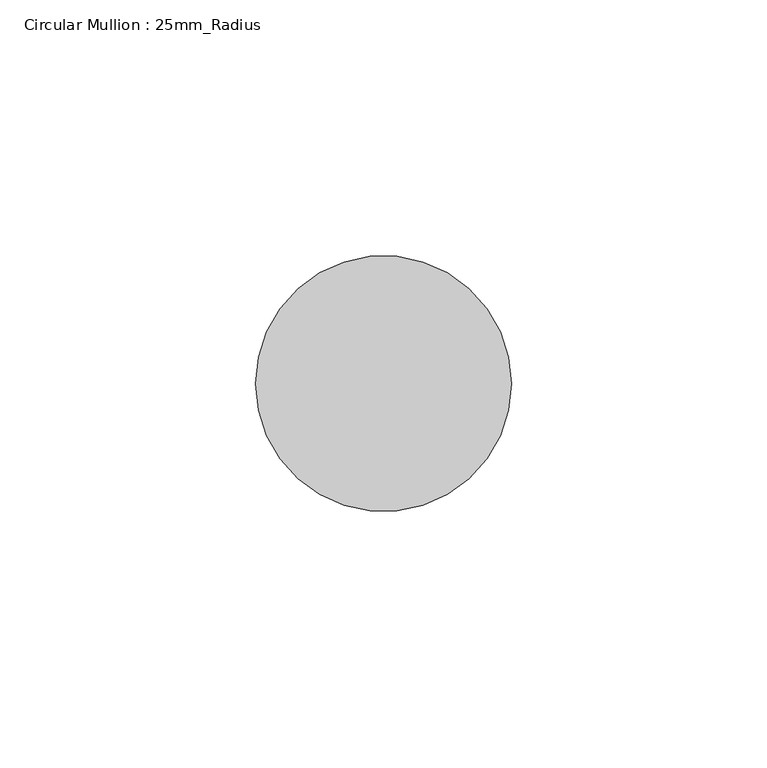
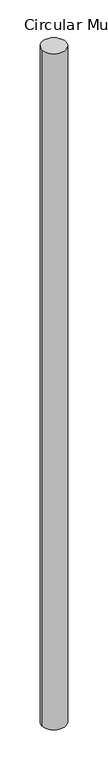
"""IFC4 building model written with IfcOpenShell, lengths in millimetres: member geometry, Circular Mullion : 25mm_Radius."""

from ifc_helpers import new_model, si_unit, point, frame, frame_2d, origin, place, context, project, spatial, circle_curve, trimmed, segment, composite_curve, outline, extrude, source, transform, mapped, element, save


def circular_mullion_25mm_radius_2fcc1ba0(model_context):
    return source(origin(), model_context, "Body", "SweptSolid", [
        extrude(outline(composite_curve([segment(trimmed(circle_curve(frame_2d((-25.0, 0.0)), 25.0), [point((0.0, 0.0))], [point((-50.0, 0.0))], False, "CARTESIAN"), True, "CONTINUOUS"), segment(trimmed(circle_curve(frame_2d((-25.0, 0.0)), 25.0), [point((-50.0, 0.0))], [point((0.0, 0.0))], False, "CARTESIAN"), True, "CONTINUOUS")], self_intersect=False)), frame((0.0, 0.0, -1491.6639607), z_axis=(0.0, 0.0, 1.0), x_axis=(1.0, 0.0, 0.0)), (0.0, 0.0, 1.0), 1491.6639607),
    ])


if __name__ == "__main__":
    model = new_model("IFC4")
    model_context = context("Model", 3, world=origin())
    ifc_project = project(units=[si_unit("LENGTHUNIT", "METRE", prefix="MILLI")], contexts=[model_context])
    site = spatial("IfcSite", under=ifc_project)
    building = spatial("IfcBuilding", under=site)
    placement = place(None, origin())
    circular_mullion_25mm_radius_shape = circular_mullion_25mm_radius_2fcc1ba0(model_context)
    element("IfcMember", 1, ObjectType="Circular Mullion : 25mm_Radius", at=placement, inside=building, context=model_context, shape_type="MappedRepresentation", body=[
        mapped(circular_mullion_25mm_radius_shape, transform((0.0, 0.0, 0.0), x_axis=(1.0, 0.0, 0.0), y_axis=(0.0, 1.0, 0.0), z_axis=(0.0, 0.0, 1.0))),
    ])
    save(model, "model.ifc")
